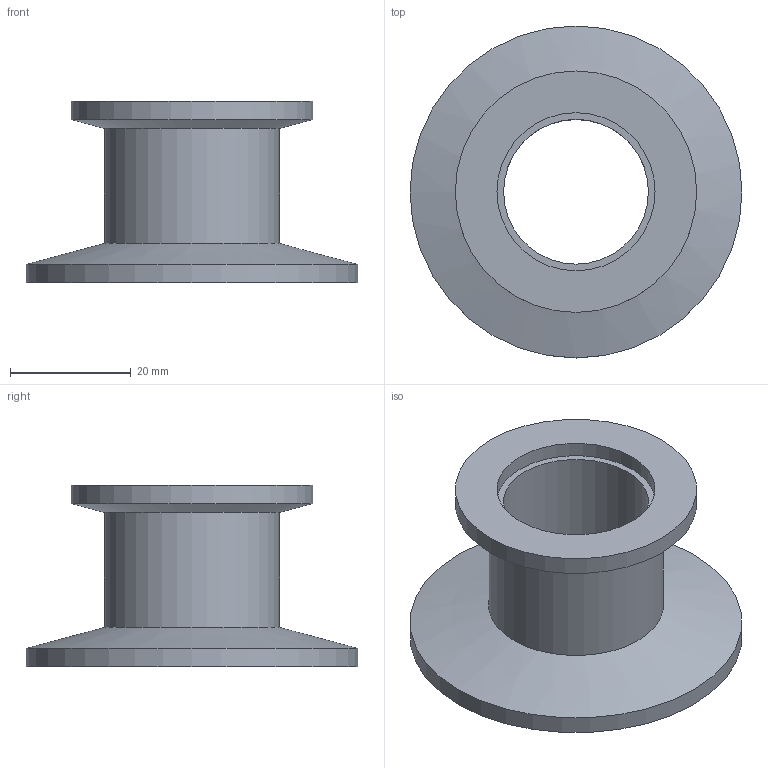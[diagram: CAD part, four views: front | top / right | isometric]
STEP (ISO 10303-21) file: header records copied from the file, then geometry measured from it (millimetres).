
FILE_DESCRIPTION( ( 'Unknown' ), '1' );
FILE_NAME( 'X:/Daten ( aktueller Bestand )/Projekte und Zeichnungen/Solid Edge/1 Kleinflanschverzweigungen/POM/Reduzierstück POM/1066P.stp', 'Unknown', ( 'Unknown' ), ( 'Unknown' ), 'XStep 1.0', 'Unknown', ' ' );
FILE_SCHEMA( ( 'automotive_design' ) );
Length unit declared in the file: millimetre
Products named in the file (1): 1
Bounding box: 55 x 55 x 30 mm (x, y, z)
Volume: 14696.7 mm3; surface area: 10602.7 mm2
Topology: 1 solids, 1 shells, 14 faces, 23 edges, 14 vertices
Faces by surface type: cylinder 7, plane 5, cone 2
Full cylindrical faces by diameter (mm): 24 x1, 26.2 x1, 29 x1, 31.7 x1, 40 x1, 41.2 x1, 55 x1
Entity records: 416 total; most frequent: DIRECTION 58, CARTESIAN_POINT 43, AXIS2_PLACEMENT_3D 29, EDGE_LOOP 28, ORIENTED_EDGE 28, FACE_OUTER_BOUND 21, STYLED_ITEM 14, PRESENTATION_STYLE_ASSIGNMENT 14
